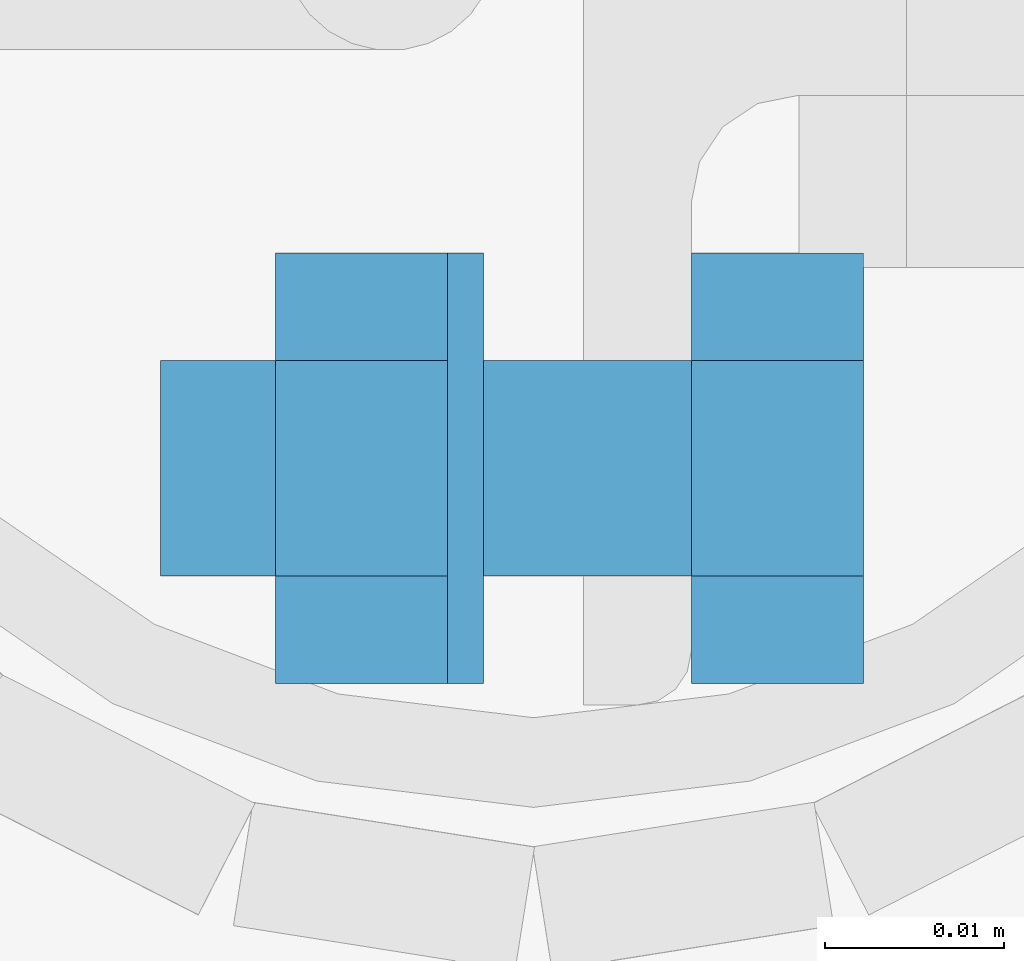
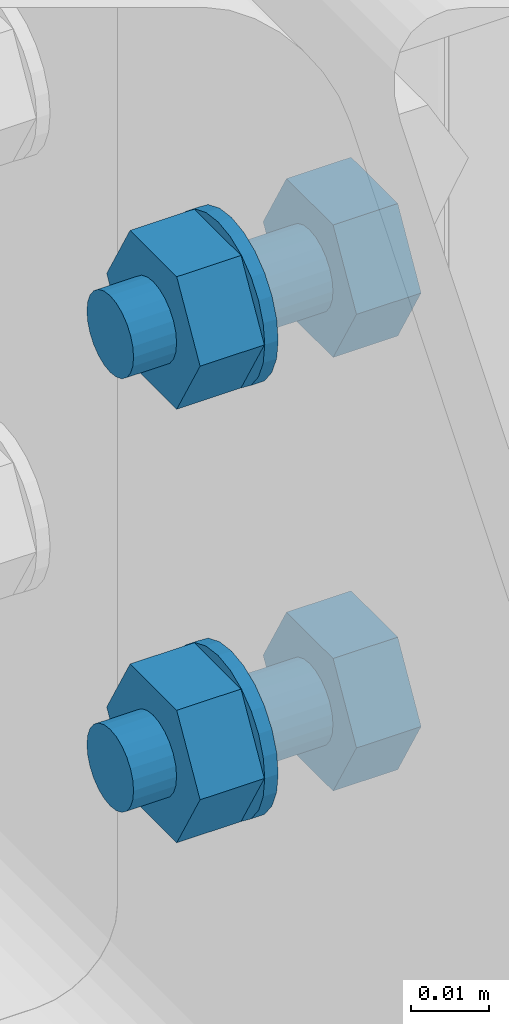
# One storey, part 77 of 84: 8 mechanical fasteners.
"""IFC4 building model written with IfcOpenShell, lengths in metres."""

from ifc_helpers import new_model, si_unit, frame, origin_with_axes, place, context, project, spatial, polyline, outline, extrude, type_object, element, save


model = new_model("IFC4")

# Units and contexts
model_context = context("Model", 3, precision=1e-05, world=origin_with_axes())
ifc_project = project(units=[si_unit("LENGTHUNIT", "METRE"), si_unit("AREAUNIT", "SQUARE_METRE"), si_unit("VOLUMEUNIT", "CUBIC_METRE"), si_unit("MASSUNIT", "GRAM", prefix="KILO"), si_unit("TIMEUNIT", "SECOND"), si_unit("PLANEANGLEUNIT", "RADIAN"), si_unit("SOLIDANGLEUNIT", "STERADIAN"), si_unit("THERMODYNAMICTEMPERATUREUNIT", "DEGREE_CELSIUS")], contexts=[model_context])

# Site, building, storey
placement_1 = place(None, origin_with_axes())
site = spatial("IfcSite", under=ifc_project, at=placement_1, Name="Italia", CompositionType="ELEMENT")
building = spatial("IfcBuilding", under=site, at=placement_1, Name="Tettoia", CompositionType="ELEMENT")
storey_placement = place(None, frame((0.0, 0.0, 4.199999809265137), z_axis=(0.0, 0.0, 1.0), x_axis=(1.0, 0.0, 0.0)))
storey = spatial("IfcBuildingStorey", under=building, at=storey_placement, Name="Storey 1", CompositionType="ELEMENT", Elevation=4.199999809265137)

# Mechanical fasteners
mechanical_fastener_type_1 = type_object("IfcMechanicalFastenerType", Name="Collegamento 0114_0115", PredefinedType="BOLT")
placement_2 = place(placement_1, origin_with_axes())
mechanical_fastener_1_placement = place(placement_2, origin_with_axes())
element("IfcMechanicalFastener", 1, at=mechanical_fastener_1_placement, inside=storey, type_object=mechanical_fastener_type_1, Name="Collegamento 0114_0115", NominalDiameter=0.0119991, context=model_context, shape_type="SweptSolid", body=[
    extrude(outline(polyline([(0.0, 0.0), (-0.0119991, 0.0), (-0.0179996, 0.0103922), (-0.0119991, 0.0207844), (0.0, 0.0207844), (0.00600052, 0.0103922), (0.0, 0.0)])), frame((0.1184, 19.7847, 4.25561), z_axis=(-1.0, 0.0, 0.0), x_axis=(0.0, -1.0, 0.0)), (0.0, 0.0, 1.0), 0.0096),
])
mechanical_fastener_type_2 = type_object("IfcMechanicalFastenerType", Name="Collegamento 0114_0115", PredefinedType="BOLT")
mechanical_fastener_2_placement = place(placement_2, origin_with_axes())
element("IfcMechanicalFastener", 2, at=mechanical_fastener_2_placement, inside=storey, type_object=mechanical_fastener_type_2, Name="Collegamento 0114_0115", NominalDiameter=0.012, context=model_context, shape_type="SweptSolid", body=[
    extrude(outline(polyline([(0.0, 0.0), (-0.000204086, -0.00155306), (-0.000804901, -0.00299978), (-0.00175858, -0.00424242), (-0.00300026, -0.00519609), (-0.00444794, -0.00579548), (-0.00600052, -0.00600004), (-0.0075531, -0.00579548), (-0.00900078, -0.00519609), (-0.0102425, -0.00424242), (-0.0111961, -0.00299978), (-0.011797, -0.00155306), (-0.012001, 0.0), (-0.011797, 0.00155306), (-0.0111961, 0.00299978), (-0.0102425, 0.00424242), (-0.00900078, 0.00519609), (-0.0075531, 0.00579548), (-0.00600052, 0.00600004), (-0.00444794, 0.00579548), (-0.00300026, 0.00519609), (-0.00175858, 0.00424242), (-0.000804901, 0.00299978), (-0.000204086, 0.00155306), (0.0, 0.0)])), frame((0.1088, 19.7847, 4.266), z_axis=(-1.0, 0.0, 0.0), x_axis=(0.0, -1.0, 0.0)), (0.0, 0.0, 1.0), 0.0296),
])
mechanical_fastener_type_3 = type_object("IfcMechanicalFastenerType", Name="Collegamento 0114_0115", PredefinedType="BOLT")
mechanical_fastener_3_placement = place(placement_2, origin_with_axes())
element("IfcMechanicalFastener", 3, at=mechanical_fastener_3_placement, inside=storey, type_object=mechanical_fastener_type_3, Name="Collegamento 0114_0115", NominalDiameter=0.0119991, context=model_context, shape_type="SweptSolid", body=[
    extrude(outline(polyline([(0.0, 0.0), (-0.0119991, 0.0), (-0.0179996, 0.0103922), (-0.0119991, 0.0207844), (0.0, 0.0207844), (0.00600052, 0.0103922), (0.0, 0.0)])), frame((0.0951999, 19.7847, 4.25561), z_axis=(-1.0, 0.0, 0.0), x_axis=(0.0, -1.0, 0.0)), (0.0, 0.0, 1.0), 0.0096),
])
mechanical_fastener_type_4 = type_object("IfcMechanicalFastenerType", Name="Collegamento 0114_0115", PredefinedType="BOLT")
mechanical_fastener_4_placement = place(placement_2, origin_with_axes())
element("IfcMechanicalFastener", 4, at=mechanical_fastener_4_placement, inside=storey, type_object=mechanical_fastener_type_4, Name="Collegamento 0114_0115", NominalDiameter=0.024, context=model_context, shape_type="SweptSolid", body=[
    extrude(outline(polyline([(0.0, 0.0), (-0.000408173, -0.00310564), (-0.00160599, -0.00600004), (-0.00351334, -0.00848532), (-0.00599861, -0.0103922), (-0.00889397, -0.011591), (-0.0119991, -0.0120001), (-0.0151043, -0.011591), (-0.0179996, -0.0103922), (-0.0204849, -0.00848532), (-0.0223923, -0.00600004), (-0.0235901, -0.00310564), (-0.0239983, 0.0), (-0.0235901, 0.00310564), (-0.0223923, 0.00600004), (-0.0204849, 0.00848532), (-0.0179996, 0.0103922), (-0.0151043, 0.011591), (-0.0119991, 0.0120001), (-0.00889397, 0.011591), (-0.00599861, 0.0103922), (-0.00351334, 0.00848532), (-0.00160599, 0.00600004), (-0.000408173, 0.00310564), (0.0, 0.0)])), frame((0.0971999, 19.7787, 4.266), z_axis=(-1.0, 0.0, 0.0), x_axis=(0.0, -1.0, 0.0)), (0.0, 0.0, 1.0), 0.002),
])
mechanical_fastener_type_5 = type_object("IfcMechanicalFastenerType", Name="Collegamento 0114_0115", PredefinedType="BOLT")
mechanical_fastener_5_placement = place(placement_2, origin_with_axes())
element("IfcMechanicalFastener", 5, at=mechanical_fastener_5_placement, inside=storey, type_object=mechanical_fastener_type_5, Name="Collegamento 0114_0115", NominalDiameter=0.0119991, context=model_context, shape_type="SweptSolid", body=[
    extrude(outline(polyline([(0.0, 0.0), (-0.0119991, 0.0), (-0.0179996, 0.0103922), (-0.0119991, 0.0207844), (0.0, 0.0207844), (0.00600052, 0.0103922), (0.0, 0.0)])), frame((0.1184, 19.7847, 4.32361), z_axis=(-1.0, 0.0, 0.0), x_axis=(0.0, -1.0, 0.0)), (0.0, 0.0, 1.0), 0.0096),
])
mechanical_fastener_type_6 = type_object("IfcMechanicalFastenerType", Name="Collegamento 0114_0115", PredefinedType="BOLT")
mechanical_fastener_6_placement = place(placement_2, origin_with_axes())
element("IfcMechanicalFastener", 6, at=mechanical_fastener_6_placement, inside=storey, type_object=mechanical_fastener_type_6, Name="Collegamento 0114_0115", NominalDiameter=0.012, context=model_context, shape_type="SweptSolid", body=[
    extrude(outline(polyline([(0.0, 0.0), (-0.000204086, -0.00155306), (-0.000804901, -0.00299978), (-0.00175858, -0.00424242), (-0.00300026, -0.00519609), (-0.00444794, -0.00579548), (-0.00600052, -0.00600004), (-0.0075531, -0.00579548), (-0.00900078, -0.00519609), (-0.0102425, -0.00424242), (-0.0111961, -0.00299978), (-0.011797, -0.00155306), (-0.012001, 0.0), (-0.011797, 0.00155306), (-0.0111961, 0.00299978), (-0.0102425, 0.00424242), (-0.00900078, 0.00519609), (-0.0075531, 0.00579548), (-0.00600052, 0.00600004), (-0.00444794, 0.00579548), (-0.00300026, 0.00519609), (-0.00175858, 0.00424242), (-0.000804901, 0.00299978), (-0.000204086, 0.00155306), (0.0, 0.0)])), frame((0.1088, 19.7847, 4.334), z_axis=(-1.0, 0.0, 0.0), x_axis=(0.0, -1.0, 0.0)), (0.0, 0.0, 1.0), 0.0296),
])
mechanical_fastener_type_7 = type_object("IfcMechanicalFastenerType", Name="Collegamento 0114_0115", PredefinedType="BOLT")
mechanical_fastener_7_placement = place(placement_2, origin_with_axes())
element("IfcMechanicalFastener", 7, at=mechanical_fastener_7_placement, inside=storey, type_object=mechanical_fastener_type_7, Name="Collegamento 0114_0115", NominalDiameter=0.0119991, context=model_context, shape_type="SweptSolid", body=[
    extrude(outline(polyline([(0.0, 0.0), (-0.0119991, 0.0), (-0.0179996, 0.0103922), (-0.0119991, 0.0207844), (0.0, 0.0207844), (0.00600052, 0.0103922), (0.0, 0.0)])), frame((0.0951999, 19.7847, 4.32361), z_axis=(-1.0, 0.0, 0.0), x_axis=(0.0, -1.0, 0.0)), (0.0, 0.0, 1.0), 0.0096),
])
mechanical_fastener_type_8 = type_object("IfcMechanicalFastenerType", Name="Collegamento 0114_0115", PredefinedType="BOLT")
mechanical_fastener_8_placement = place(placement_2, origin_with_axes())
element("IfcMechanicalFastener", 8, at=mechanical_fastener_8_placement, inside=storey, type_object=mechanical_fastener_type_8, Name="Collegamento 0114_0115", NominalDiameter=0.024, context=model_context, shape_type="SweptSolid", body=[
    extrude(outline(polyline([(0.0, 0.0), (-0.000408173, -0.00310564), (-0.00160599, -0.00600004), (-0.00351334, -0.00848532), (-0.00599861, -0.0103922), (-0.00889397, -0.011591), (-0.0119991, -0.0120001), (-0.0151043, -0.011591), (-0.0179996, -0.0103922), (-0.0204849, -0.00848532), (-0.0223923, -0.00600004), (-0.0235901, -0.00310564), (-0.0239983, 0.0), (-0.0235901, 0.00310564), (-0.0223923, 0.00600004), (-0.0204849, 0.00848532), (-0.0179996, 0.0103922), (-0.0151043, 0.011591), (-0.0119991, 0.0120001), (-0.00889397, 0.011591), (-0.00599861, 0.0103922), (-0.00351334, 0.00848532), (-0.00160599, 0.00600004), (-0.000408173, 0.00310564), (0.0, 0.0)])), frame((0.0971999, 19.7787, 4.334), z_axis=(-1.0, 0.0, 0.0), x_axis=(0.0, -1.0, 0.0)), (0.0, 0.0, 1.0), 0.002),
])

save(model, "model.ifc")
